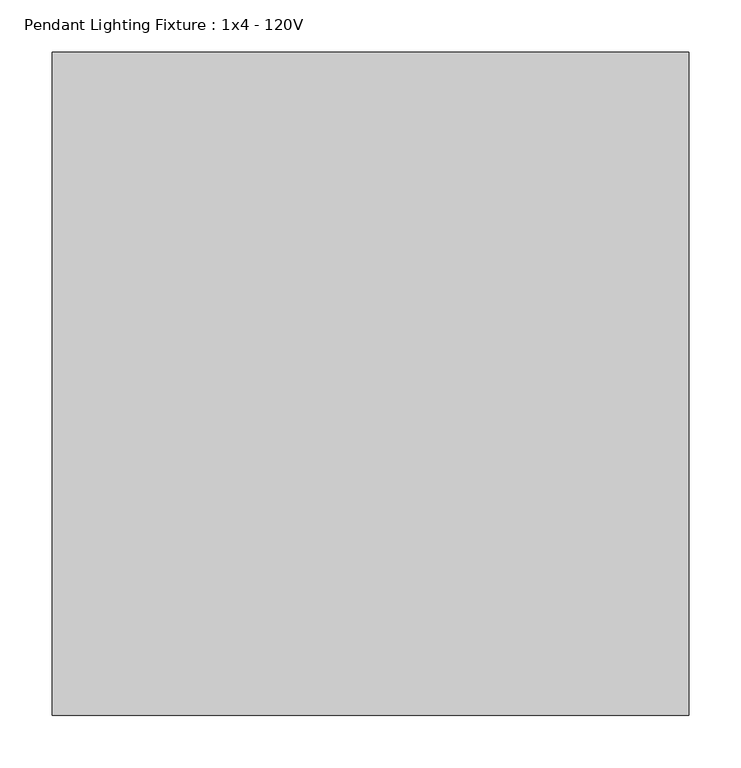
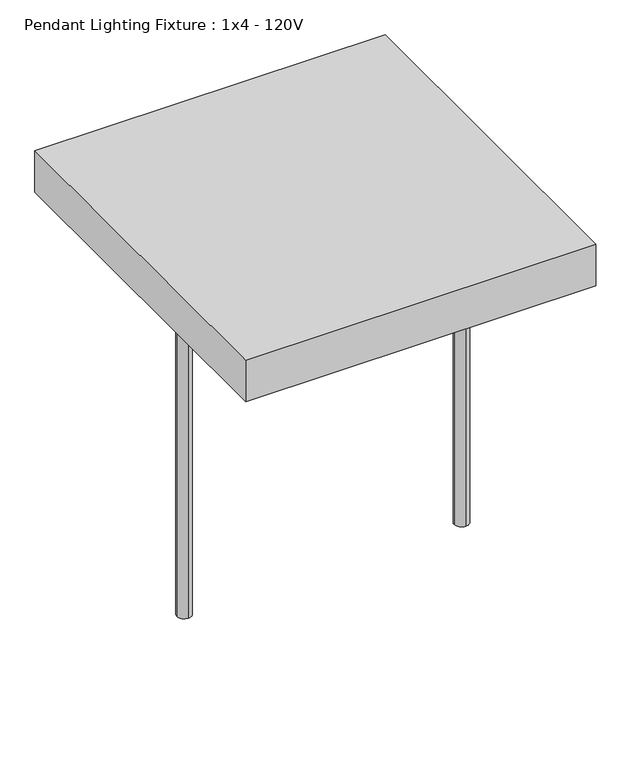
"""IFC4 building model written with IfcOpenShell, lengths in millimetres: light fixture geometry, Pendant Lighting Fixture : 1x4 - 120V."""

from ifc_helpers import new_model, si_unit, point, frame, frame_2d, origin, origin_with_axes, place, context, project, spatial, polyline, circle_curve, trimmed, segment, composite_curve, outline, extrude, source, transform, mapped, element, save


def pendant_lighting_fixture_1x4_120v_f6e95e0c(model_context):
    return source(origin(), model_context, "Body", "SweptSolid", [
        extrude(outline(composite_curve([segment(trimmed(circle_curve(frame_2d((76.2, -101.6)), 12.7), [point((88.9, -101.6))], [point((76.2, -114.3))], False, "CARTESIAN"), True, "CONTINUOUS"), segment(trimmed(circle_curve(frame_2d((76.2, -101.6)), 12.7), [point((76.2, -114.3))], [point((63.5, -101.6))], False, "CARTESIAN"), True, "CONTINUOUS"), segment(trimmed(circle_curve(frame_2d((76.2, -101.6)), 12.7), [point((63.5, -101.6))], [point((76.2, -88.9))], False, "CARTESIAN"), True, "CONTINUOUS"), segment(trimmed(circle_curve(frame_2d((76.2, -101.6)), 12.7), [point((76.2, -88.9))], [point((88.9, -101.6))], False, "CARTESIAN"), True, "CONTINUOUS")], self_intersect=False)), origin_with_axes(), (0.0, 0.0, 1.0), 609.6),
        extrude(outline(composite_curve([segment(trimmed(circle_curve(frame_2d((558.8, -101.6)), 12.7), [point((571.5, -101.6))], [point((558.8, -114.3))], False, "CARTESIAN"), True, "CONTINUOUS"), segment(trimmed(circle_curve(frame_2d((558.8, -101.6)), 12.7), [point((558.8, -114.3))], [point((546.1, -101.6))], False, "CARTESIAN"), True, "CONTINUOUS"), segment(trimmed(circle_curve(frame_2d((558.8, -101.6)), 12.7), [point((546.1, -101.6))], [point((558.8, -88.9))], False, "CARTESIAN"), True, "CONTINUOUS"), segment(trimmed(circle_curve(frame_2d((558.8, -101.6)), 12.7), [point((558.8, -88.9))], [point((571.5, -101.6))], False, "CARTESIAN"), True, "CONTINUOUS")], self_intersect=False)), origin_with_axes(), (0.0, 0.0, 1.0), 609.6),
        extrude(outline(polyline([(609.6, 215.9), (609.6, -419.1), (0.0, -419.1), (0.0, 215.9), (609.6, 215.9)])), frame((0.0, 0.0, 609.6), z_axis=(0.0, 0.0, 1.0), x_axis=(1.0, 0.0, 0.0)), (0.0, 0.0, 1.0), 76.2),
    ])


if __name__ == "__main__":
    model = new_model("IFC4")
    model_context = context("Model", 3, world=origin())
    ifc_project = project(units=[si_unit("LENGTHUNIT", "METRE", prefix="MILLI")], contexts=[model_context])
    site = spatial("IfcSite", under=ifc_project)
    building = spatial("IfcBuilding", under=site)
    placement = place(None, origin())
    pendant_lighting_fixture_1x4_120v_shape = pendant_lighting_fixture_1x4_120v_f6e95e0c(model_context)
    element("IfcLightFixture", 1, ObjectType="Pendant Lighting Fixture : 1x4 - 120V", at=placement, inside=building, context=model_context, shape_type="MappedRepresentation", body=[
        mapped(pendant_lighting_fixture_1x4_120v_shape, transform((0.0, 0.0, 0.0), x_axis=(1.0, 0.0, 0.0), y_axis=(0.0, 1.0, 0.0), z_axis=(0.0, 0.0, 1.0))),
    ])
    save(model, "model.ifc")
